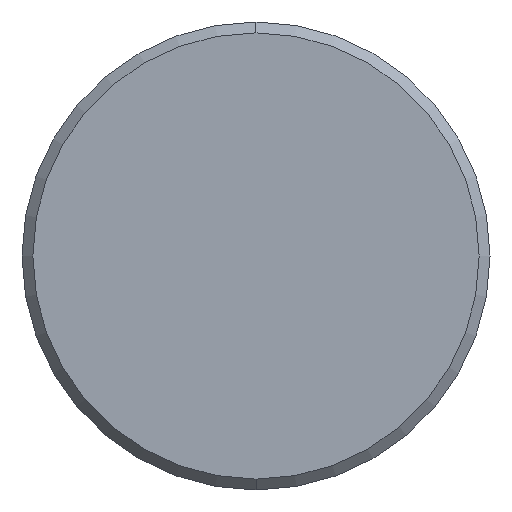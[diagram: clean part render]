
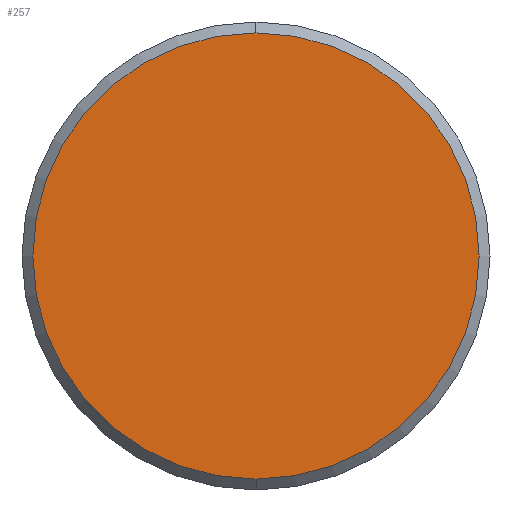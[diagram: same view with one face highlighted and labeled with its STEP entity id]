
A CAD part, left-side view. The second image highlights one B-rep face of the part: STEP entity #257.
In plain terms, the highlighted planar face has unit normal (-1, 0, 0).
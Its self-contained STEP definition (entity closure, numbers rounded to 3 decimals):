
#46 = EDGE_CURVE ( 'NONE', #758, #812, #1993, .T. ) ;
#152 = EDGE_CURVE ( 'NONE', #812, #758, #1955, .T. ) ;
#257 = ADVANCED_FACE ( 'NONE', ( #1246 ), #1732, .F. ) ;
#613 = ORIENTED_EDGE ( 'NONE', *, *, #46, .F. ) ;
#758 = VERTEX_POINT ( 'NONE', #2126 ) ;
#812 = VERTEX_POINT ( 'NONE', #2097 ) ;
#833 = EDGE_LOOP ( 'NONE', ( #1127, #613 ) ) ;
#1127 = ORIENTED_EDGE ( 'NONE', *, *, #152, .F. ) ;
#1246 = FACE_OUTER_BOUND ( 'NONE', #833, .T. ) ;
#1307 = DIRECTION ( 'NONE',  ( 0., 0., -1. ) ) ;
#1332 = CARTESIAN_POINT ( 'NONE',  ( 0., 0., 0. ) ) ;
#1376 = DIRECTION ( 'NONE',  ( 1., 0., 0. ) ) ;
#1491 = DIRECTION ( 'NONE',  ( 1., 0., 0. ) ) ;
#1732 = PLANE ( 'NONE',  #1941 ) ;
#1739 = DIRECTION ( 'NONE',  ( 0., 0., -1. ) ) ;
#1764 = CARTESIAN_POINT ( 'NONE',  ( 0., -21.758, 21.758 ) ) ;
#1936 = AXIS2_PLACEMENT_3D ( 'NONE', #1332, #1376, #1307 ) ;
#1941 = AXIS2_PLACEMENT_3D ( 'NONE', #1764, #1491, #1739 ) ;
#1955 = CIRCLE ( 'NONE', #1936, 20.5 ) ;
#1993 = CIRCLE ( 'NONE', #2025, 20.5 ) ;
#2025 = AXIS2_PLACEMENT_3D ( 'NONE', #2337, #2287, #2310 ) ;
#2097 = CARTESIAN_POINT ( 'NONE',  ( 0., 0., -20.5 ) ) ;
#2126 = CARTESIAN_POINT ( 'NONE',  ( 0., 0., 20.5 ) ) ;
#2287 = DIRECTION ( 'NONE',  ( 1., 0., 0. ) ) ;
#2310 = DIRECTION ( 'NONE',  ( 0., 0., -1. ) ) ;
#2337 = CARTESIAN_POINT ( 'NONE',  ( 0., 0., 0. ) ) ;
